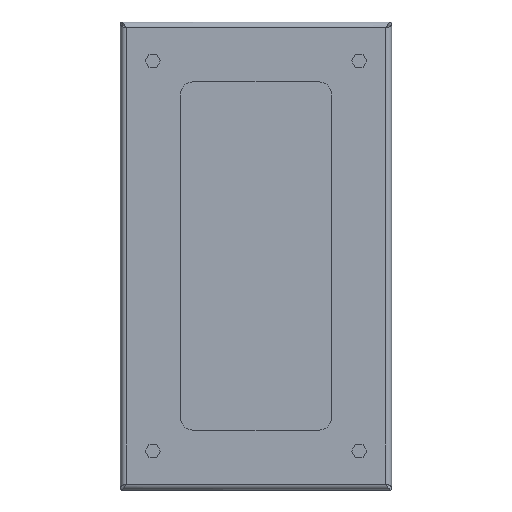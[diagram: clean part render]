
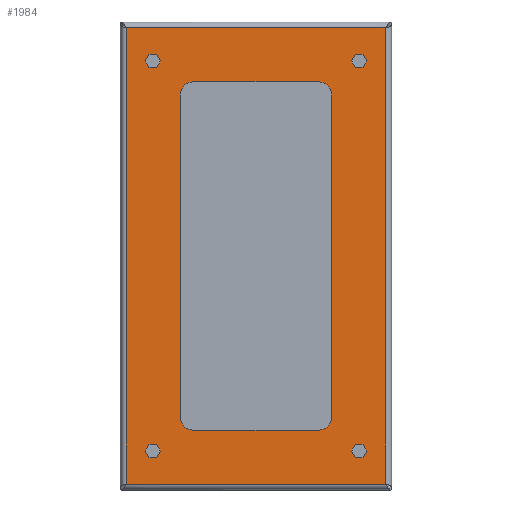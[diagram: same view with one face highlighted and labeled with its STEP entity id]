
A CAD part, top view. The second image highlights one B-rep face of the part: STEP entity #1984.
In plain terms, the highlighted planar face has unit normal (0, 0, 1).
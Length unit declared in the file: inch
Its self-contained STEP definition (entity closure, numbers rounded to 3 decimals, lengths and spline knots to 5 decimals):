
#18=DIRECTION('',(-1.,0.,0.));
#19=VECTOR('',#18,2.35);
#20=CARTESIAN_POINT('',(1.175,-3.275,0.2095));
#21=LINE('',#20,#19);
#26=CARTESIAN_POINT('',(1.175,-3.025,0.2095));
#27=DIRECTION('',(0.,0.,1.));
#28=DIRECTION('',(0.,-1.,0.));
#29=AXIS2_PLACEMENT_3D('',#26,#27,#28);
#34=DIRECTION('',(0.,-1.,0.));
#35=VECTOR('',#34,6.05);
#36=CARTESIAN_POINT('',(1.425,3.025,0.2095));
#37=LINE('',#36,#35);
#41=CARTESIAN_POINT('',(1.175,3.025,0.2095));
#42=DIRECTION('',(0.,0.,1.));
#43=DIRECTION('',(1.,0.,0.));
#44=AXIS2_PLACEMENT_3D('',#41,#42,#43);
#49=DIRECTION('',(1.,0.,0.));
#50=VECTOR('',#49,2.35);
#51=CARTESIAN_POINT('',(-1.175,3.275,0.2095));
#52=LINE('',#51,#50);
#56=CARTESIAN_POINT('',(-1.175,3.025,0.2095));
#57=DIRECTION('',(0.,0.,1.));
#58=DIRECTION('',(0.,1.,0.));
#59=AXIS2_PLACEMENT_3D('',#56,#57,#58);
#64=DIRECTION('',(0.,1.,0.));
#65=VECTOR('',#64,6.05);
#66=CARTESIAN_POINT('',(-1.425,-3.025,0.2095));
#67=LINE('',#66,#65);
#71=CARTESIAN_POINT('',(-1.175,-3.025,0.2095));
#72=DIRECTION('',(0.,0.,1.));
#73=DIRECTION('',(-1.,0.,0.));
#74=AXIS2_PLACEMENT_3D('',#71,#72,#73);
#79=CARTESIAN_POINT('',(-1.94063,3.66975,0.2095));
#80=DIRECTION('',(0.,0.,1.));
#81=DIRECTION('',(-1.,0.,0.));
#82=AXIS2_PLACEMENT_3D('',#79,#80,#81);
#87=CARTESIAN_POINT('',(-1.94063,3.66975,0.2095));
#88=DIRECTION('',(0.,0.,1.));
#89=DIRECTION('',(1.,0.,0.));
#90=AXIS2_PLACEMENT_3D('',#87,#88,#89);
#95=CARTESIAN_POINT('',(1.94063,3.66975,0.2095));
#96=DIRECTION('',(0.,0.,1.));
#97=DIRECTION('',(-1.,0.,0.));
#98=AXIS2_PLACEMENT_3D('',#95,#96,#97);
#103=CARTESIAN_POINT('',(1.94063,3.66975,0.2095));
#104=DIRECTION('',(0.,0.,1.));
#105=DIRECTION('',(1.,0.,0.));
#106=AXIS2_PLACEMENT_3D('',#103,#104,#105);
#111=CARTESIAN_POINT('',(1.94063,-3.66975,0.2095));
#112=DIRECTION('',(0.,0.,1.));
#113=DIRECTION('',(-1.,0.,0.));
#114=AXIS2_PLACEMENT_3D('',#111,#112,#113);
#119=CARTESIAN_POINT('',(1.94063,-3.66975,0.2095));
#120=DIRECTION('',(0.,0.,1.));
#121=DIRECTION('',(1.,0.,0.));
#122=AXIS2_PLACEMENT_3D('',#119,#120,#121);
#127=CARTESIAN_POINT('',(-1.94063,-3.66975,0.2095));
#128=DIRECTION('',(0.,0.,1.));
#129=DIRECTION('',(-1.,0.,0.));
#130=AXIS2_PLACEMENT_3D('',#127,#128,#129);
#135=CARTESIAN_POINT('',(-1.94063,-3.66975,0.2095));
#136=DIRECTION('',(0.,0.,1.));
#137=DIRECTION('',(1.,0.,0.));
#138=AXIS2_PLACEMENT_3D('',#135,#136,#137);
#1182=DIRECTION('',(1.,0.,0.));
#1183=VECTOR('',#1182,4.876);
#1184=CARTESIAN_POINT('',(-2.438,-4.288,0.2095));
#1185=LINE('',#1184,#1183);
#1285=DIRECTION('',(0.,1.,0.));
#1286=VECTOR('',#1285,8.576);
#1287=CARTESIAN_POINT('',(2.438,-4.288,0.2095));
#1288=LINE('',#1287,#1286);
#1457=DIRECTION('',(-1.,0.,0.));
#1458=VECTOR('',#1457,4.876);
#1459=CARTESIAN_POINT('',(2.438,4.288,0.2095));
#1460=LINE('',#1459,#1458);
#1635=DIRECTION('',(0.,-1.,0.));
#1636=VECTOR('',#1635,8.576);
#1637=CARTESIAN_POINT('',(-2.438,4.288,0.2095));
#1638=LINE('',#1637,#1636);
#1751=CARTESIAN_POINT('',(-2.438,4.288,0.2095));
#1752=CARTESIAN_POINT('',(-2.438,-4.288,0.2095));
#1753=VERTEX_POINT('',#1751);
#1754=VERTEX_POINT('',#1752);
#1755=CARTESIAN_POINT('',(2.438,-4.288,0.2095));
#1756=CARTESIAN_POINT('',(2.438,4.288,0.2095));
#1757=VERTEX_POINT('',#1755);
#1758=VERTEX_POINT('',#1756);
#1783=CARTESIAN_POINT('',(-2.04713,3.66975,0.2095));
#1784=CARTESIAN_POINT('',(-1.83413,3.66975,0.2095));
#1785=VERTEX_POINT('',#1783);
#1786=VERTEX_POINT('',#1784);
#1787=CARTESIAN_POINT('',(1.83413,3.66975,0.2095));
#1788=CARTESIAN_POINT('',(2.04713,3.66975,0.2095));
#1789=VERTEX_POINT('',#1787);
#1790=VERTEX_POINT('',#1788);
#1791=CARTESIAN_POINT('',(1.83413,-3.66975,0.2095));
#1792=CARTESIAN_POINT('',(2.04713,-3.66975,0.2095));
#1793=VERTEX_POINT('',#1791);
#1794=VERTEX_POINT('',#1792);
#1795=CARTESIAN_POINT('',(-2.04713,-3.66975,0.2095));
#1796=CARTESIAN_POINT('',(-1.83413,-3.66975,0.2095));
#1797=VERTEX_POINT('',#1795);
#1798=VERTEX_POINT('',#1796);
#1895=CARTESIAN_POINT('',(1.175,-3.275,0.2095));
#1896=CARTESIAN_POINT('',(-1.175,-3.275,0.2095));
#1897=VERTEX_POINT('',#1895);
#1898=VERTEX_POINT('',#1896);
#1899=CARTESIAN_POINT('',(-1.425,-3.025,0.2095));
#1900=VERTEX_POINT('',#1899);
#1901=CARTESIAN_POINT('',(-1.425,3.025,0.2095));
#1902=VERTEX_POINT('',#1901);
#1903=CARTESIAN_POINT('',(-1.175,3.275,0.2095));
#1904=VERTEX_POINT('',#1903);
#1905=CARTESIAN_POINT('',(1.175,3.275,0.2095));
#1906=VERTEX_POINT('',#1905);
#1907=CARTESIAN_POINT('',(1.425,3.025,0.2095));
#1908=VERTEX_POINT('',#1907);
#1909=CARTESIAN_POINT('',(1.425,-3.025,0.2095));
#1910=VERTEX_POINT('',#1909);
#1927=CARTESIAN_POINT('',(0.,0.,0.2095));
#1928=DIRECTION('',(0.,0.,1.));
#1929=DIRECTION('',(1.,0.,0.));
#1930=AXIS2_PLACEMENT_3D('',#1927,#1928,#1929);
#1931=PLANE('',#1930);
#1933=ORIENTED_EDGE('',*,*,#1932,.F.);
#1935=ORIENTED_EDGE('',*,*,#1934,.F.);
#1937=ORIENTED_EDGE('',*,*,#1936,.F.);
#1939=ORIENTED_EDGE('',*,*,#1938,.F.);
#1940=EDGE_LOOP('',(#1933,#1935,#1937,#1939));
#1941=FACE_OUTER_BOUND('',#1940,.F.);
#1943=ORIENTED_EDGE('',*,*,#1942,.T.);
#1945=ORIENTED_EDGE('',*,*,#1944,.T.);
#1946=EDGE_LOOP('',(#1943,#1945));
#1947=FACE_BOUND('',#1946,.F.);
#1949=ORIENTED_EDGE('',*,*,#1948,.T.);
#1951=ORIENTED_EDGE('',*,*,#1950,.T.);
#1952=EDGE_LOOP('',(#1949,#1951));
#1953=FACE_BOUND('',#1952,.F.);
#1955=ORIENTED_EDGE('',*,*,#1954,.T.);
#1957=ORIENTED_EDGE('',*,*,#1956,.T.);
#1958=EDGE_LOOP('',(#1955,#1957));
#1959=FACE_BOUND('',#1958,.F.);
#1961=ORIENTED_EDGE('',*,*,#1960,.T.);
#1963=ORIENTED_EDGE('',*,*,#1962,.T.);
#1964=EDGE_LOOP('',(#1961,#1963));
#1965=FACE_BOUND('',#1964,.F.);
#1967=ORIENTED_EDGE('',*,*,#1966,.F.);
#1969=ORIENTED_EDGE('',*,*,#1968,.T.);
#1971=ORIENTED_EDGE('',*,*,#1970,.F.);
#1973=ORIENTED_EDGE('',*,*,#1972,.T.);
#1975=ORIENTED_EDGE('',*,*,#1974,.F.);
#1977=ORIENTED_EDGE('',*,*,#1976,.T.);
#1979=ORIENTED_EDGE('',*,*,#1978,.F.);
#1981=ORIENTED_EDGE('',*,*,#1980,.T.);
#1982=EDGE_LOOP('',(#1967,#1969,#1971,#1973,#1975,#1977,#1979,#1981));
#1983=FACE_BOUND('',#1982,.F.);
#30=CIRCLE('',#29,0.25);
#45=CIRCLE('',#44,0.25);
#60=CIRCLE('',#59,0.25);
#75=CIRCLE('',#74,0.25);
#83=CIRCLE('',#82,0.1065);
#91=CIRCLE('',#90,0.1065);
#99=CIRCLE('',#98,0.1065);
#107=CIRCLE('',#106,0.1065);
#115=CIRCLE('',#114,0.1065);
#123=CIRCLE('',#122,0.1065);
#131=CIRCLE('',#130,0.1065);
#139=CIRCLE('',#138,0.1065);
#1932=EDGE_CURVE('',#1754,#1757,#1185,.T.);
#1934=EDGE_CURVE('',#1753,#1754,#1638,.T.);
#1936=EDGE_CURVE('',#1758,#1753,#1460,.T.);
#1938=EDGE_CURVE('',#1757,#1758,#1288,.T.);
#1942=EDGE_CURVE('',#1785,#1786,#83,.T.);
#1944=EDGE_CURVE('',#1786,#1785,#91,.T.);
#1948=EDGE_CURVE('',#1789,#1790,#99,.T.);
#1950=EDGE_CURVE('',#1790,#1789,#107,.T.);
#1954=EDGE_CURVE('',#1793,#1794,#115,.T.);
#1956=EDGE_CURVE('',#1794,#1793,#123,.T.);
#1960=EDGE_CURVE('',#1797,#1798,#131,.T.);
#1962=EDGE_CURVE('',#1798,#1797,#139,.T.);
#1966=EDGE_CURVE('',#1897,#1898,#21,.T.);
#1968=EDGE_CURVE('',#1897,#1910,#30,.T.);
#1970=EDGE_CURVE('',#1908,#1910,#37,.T.);
#1972=EDGE_CURVE('',#1908,#1906,#45,.T.);
#1974=EDGE_CURVE('',#1904,#1906,#52,.T.);
#1976=EDGE_CURVE('',#1904,#1902,#60,.T.);
#1978=EDGE_CURVE('',#1900,#1902,#67,.T.);
#1980=EDGE_CURVE('',#1900,#1898,#75,.T.);
#1984=ADVANCED_FACE('',(#1941,#1947,#1953,#1959,#1965,#1983),#1931,.T.);
